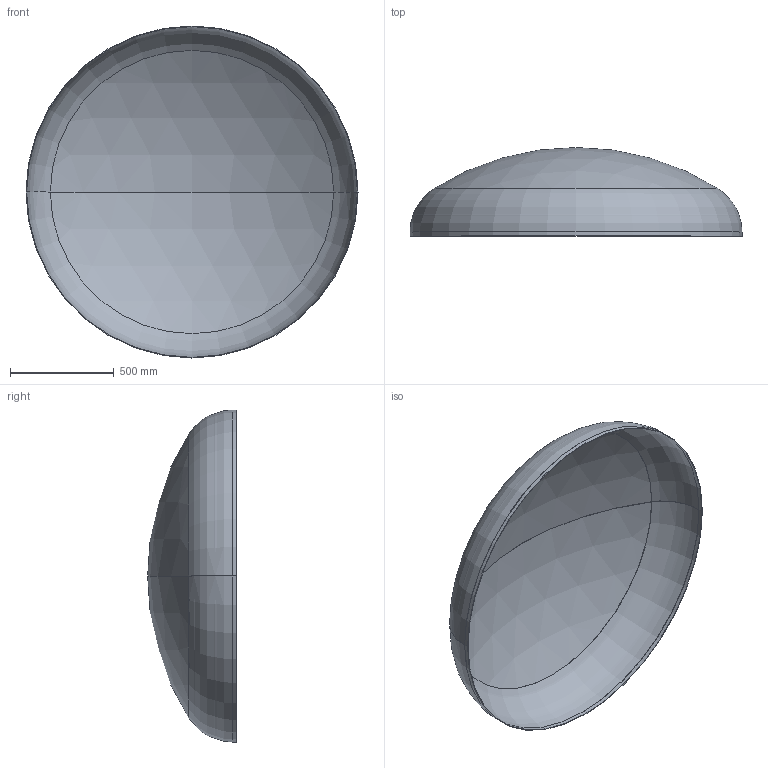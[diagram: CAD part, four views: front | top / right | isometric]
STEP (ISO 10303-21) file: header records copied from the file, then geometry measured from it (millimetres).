
FILE_DESCRIPTION (( 'STEP AP203' ), '1' );
FILE_NAME ('DIN 28013 Korbbogenform_-_Boden DIN 28013 - 1600 x 20 - I - s=3.step', '2016-07-01T11:02:00', ( '' ), ( '' ), 'SwSTEP 2.0', 'SolidWorks 2013', '' );
FILE_SCHEMA (( 'CONFIG_CONTROL_DESIGN' ));
Length unit declared in the file: millimetre
Products named in the file (1): DIN 28013 Korbbogenform_-_Boden DIN 28013 - 1600 x 20 - I - s=3
Bounding box: 1600 x 427.49 x 1600 mm (x, y, z)
Volume: 8625982.4 mm3; surface area: 5765722.8 mm2
Topology: 1 solids, 1 shells, 13 faces, 24 edges, 14 vertices
Faces by surface type: torus 4, cylinder 4, sphere 4, plane 1
Entity records: 407 total; most frequent: DIRECTION 72, CARTESIAN_POINT 52, ORIENTED_EDGE 48, AXIS2_PLACEMENT_3D 34, EDGE_CURVE 24, CIRCLE 20, VERTEX_POINT 14, EDGE_LOOP 14
